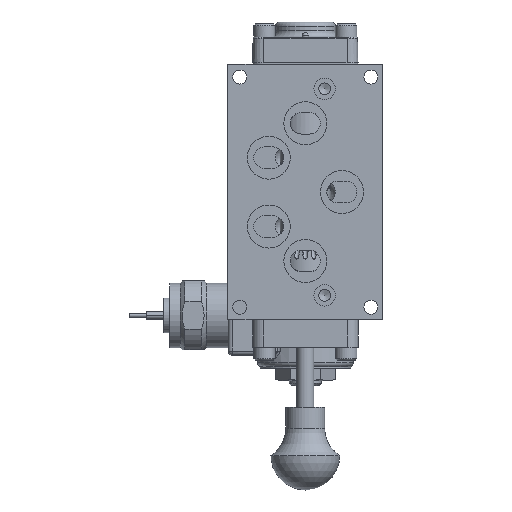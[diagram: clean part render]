
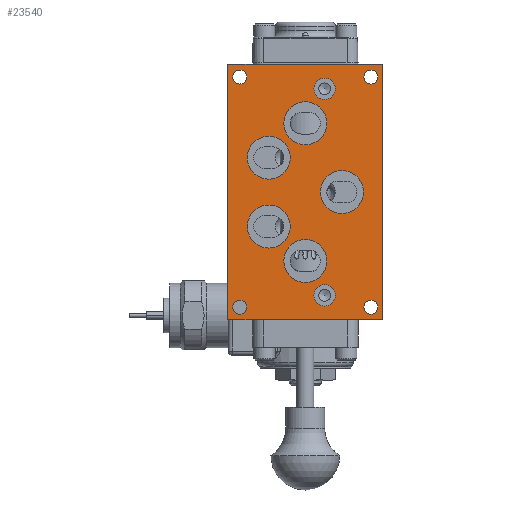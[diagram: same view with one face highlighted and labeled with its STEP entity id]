
A CAD part, front view. The second image highlights one B-rep face of the part: STEP entity #23540.
In plain terms, the highlighted planar face has unit normal (0, -1, 0).
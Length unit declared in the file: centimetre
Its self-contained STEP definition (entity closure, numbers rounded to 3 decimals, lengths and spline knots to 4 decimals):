
#818=FACE_BOUND('',#7115,.T.);
#819=FACE_BOUND('',#7116,.T.);
#820=FACE_BOUND('',#7117,.T.);
#821=FACE_BOUND('',#7118,.T.);
#822=FACE_BOUND('',#7119,.T.);
#823=FACE_BOUND('',#7120,.T.);
#824=FACE_BOUND('',#7121,.T.);
#825=FACE_BOUND('',#7122,.T.);
#826=FACE_BOUND('',#7123,.T.);
#827=FACE_BOUND('',#7124,.T.);
#828=FACE_BOUND('',#7125,.T.);
#2528=LINE('',#42718,#4059);
#2532=LINE('',#42727,#4063);
#2534=LINE('',#42730,#4065);
#2535=LINE('',#42731,#4066);
#4059=VECTOR('',#31596,1.);
#4063=VECTOR('',#31606,1.);
#4065=VECTOR('',#31610,1.);
#4066=VECTOR('',#31611,1.);
#5612=FACE_OUTER_BOUND('',#7114,.T.);
#7114=EDGE_LOOP('',(#19197,#19198,#19199,#19200));
#7115=EDGE_LOOP('',(#19201,#19202));
#7116=EDGE_LOOP('',(#19203,#19204));
#7117=EDGE_LOOP('',(#19205,#19206));
#7118=EDGE_LOOP('',(#19207,#19208));
#7119=EDGE_LOOP('',(#19209,#19210));
#7120=EDGE_LOOP('',(#19211,#19212));
#7121=EDGE_LOOP('',(#19213,#19214));
#7122=EDGE_LOOP('',(#19215));
#7123=EDGE_LOOP('',(#19216));
#7124=EDGE_LOOP('',(#19217));
#7125=EDGE_LOOP('',(#19218));
#8344=CIRCLE('',#25714,0.3962);
#8345=CIRCLE('',#25715,0.3962);
#8351=CIRCLE('',#25725,0.3962);
#8352=CIRCLE('',#25726,0.3962);
#8355=CIRCLE('',#25732,0.7938);
#8356=CIRCLE('',#25733,0.7938);
#8359=CIRCLE('',#25738,0.7938);
#8360=CIRCLE('',#25739,0.7938);
#8363=CIRCLE('',#25744,0.7938);
#8364=CIRCLE('',#25745,0.7938);
#8367=CIRCLE('',#25750,0.7938);
#8368=CIRCLE('',#25751,0.7938);
#8371=CIRCLE('',#25756,0.7938);
#8372=CIRCLE('',#25757,0.7938);
#8389=CIRCLE('',#25782,0.258);
#8393=CIRCLE('',#25788,0.258);
#8397=CIRCLE('',#25794,0.258);
#8401=CIRCLE('',#25800,0.258);
#10344=VERTEX_POINT('',#42494);
#10345=VERTEX_POINT('',#42495);
#10352=VERTEX_POINT('',#42516);
#10353=VERTEX_POINT('',#42517);
#10356=VERTEX_POINT('',#42529);
#10357=VERTEX_POINT('',#42530);
#10360=VERTEX_POINT('',#42540);
#10361=VERTEX_POINT('',#42541);
#10364=VERTEX_POINT('',#42551);
#10365=VERTEX_POINT('',#42552);
#10368=VERTEX_POINT('',#42562);
#10369=VERTEX_POINT('',#42563);
#10372=VERTEX_POINT('',#42573);
#10373=VERTEX_POINT('',#42574);
#10390=VERTEX_POINT('',#42626);
#10396=VERTEX_POINT('',#42641);
#10402=VERTEX_POINT('',#42656);
#10408=VERTEX_POINT('',#42671);
#10421=VERTEX_POINT('',#42714);
#10422=VERTEX_POINT('',#42716);
#10423=VERTEX_POINT('',#42724);
#10424=VERTEX_POINT('',#42726);
#13357=EDGE_CURVE('',#10344,#10345,#8344,.T.);
#13358=EDGE_CURVE('',#10345,#10344,#8345,.T.);
#13367=EDGE_CURVE('',#10352,#10353,#8351,.T.);
#13368=EDGE_CURVE('',#10353,#10352,#8352,.T.);
#13373=EDGE_CURVE('',#10356,#10357,#8355,.T.);
#13374=EDGE_CURVE('',#10357,#10356,#8356,.T.);
#13378=EDGE_CURVE('',#10360,#10361,#8359,.T.);
#13379=EDGE_CURVE('',#10361,#10360,#8360,.T.);
#13383=EDGE_CURVE('',#10364,#10365,#8363,.T.);
#13384=EDGE_CURVE('',#10365,#10364,#8364,.T.);
#13388=EDGE_CURVE('',#10368,#10369,#8367,.T.);
#13389=EDGE_CURVE('',#10369,#10368,#8368,.T.);
#13393=EDGE_CURVE('',#10372,#10373,#8371,.T.);
#13394=EDGE_CURVE('',#10373,#10372,#8372,.T.);
#13421=EDGE_CURVE('',#10390,#10390,#8389,.T.);
#13428=EDGE_CURVE('',#10396,#10396,#8393,.T.);
#13435=EDGE_CURVE('',#10402,#10402,#8397,.T.);
#13442=EDGE_CURVE('',#10408,#10408,#8401,.T.);
#13465=EDGE_CURVE('',#10421,#10422,#2528,.T.);
#13469=EDGE_CURVE('',#10424,#10423,#2532,.T.);
#13471=EDGE_CURVE('',#10423,#10421,#2534,.T.);
#13472=EDGE_CURVE('',#10422,#10424,#2535,.T.);
#19197=ORIENTED_EDGE('',*,*,#13471,.T.);
#19198=ORIENTED_EDGE('',*,*,#13465,.T.);
#19199=ORIENTED_EDGE('',*,*,#13472,.T.);
#19200=ORIENTED_EDGE('',*,*,#13469,.T.);
#19201=ORIENTED_EDGE('',*,*,#13357,.T.);
#19202=ORIENTED_EDGE('',*,*,#13358,.T.);
#19203=ORIENTED_EDGE('',*,*,#13367,.T.);
#19204=ORIENTED_EDGE('',*,*,#13368,.T.);
#19205=ORIENTED_EDGE('',*,*,#13373,.T.);
#19206=ORIENTED_EDGE('',*,*,#13374,.T.);
#19207=ORIENTED_EDGE('',*,*,#13378,.T.);
#19208=ORIENTED_EDGE('',*,*,#13379,.T.);
#19209=ORIENTED_EDGE('',*,*,#13383,.T.);
#19210=ORIENTED_EDGE('',*,*,#13384,.T.);
#19211=ORIENTED_EDGE('',*,*,#13388,.T.);
#19212=ORIENTED_EDGE('',*,*,#13389,.T.);
#19213=ORIENTED_EDGE('',*,*,#13393,.T.);
#19214=ORIENTED_EDGE('',*,*,#13394,.T.);
#19215=ORIENTED_EDGE('',*,*,#13421,.T.);
#19216=ORIENTED_EDGE('',*,*,#13428,.T.);
#19217=ORIENTED_EDGE('',*,*,#13435,.T.);
#19218=ORIENTED_EDGE('',*,*,#13442,.T.);
#21292=PLANE('',#25812);
#23540=ADVANCED_FACE('',(#5612,#818,#819,#820,#821,#822,#823,#824,#825,
#826,#827,#828),#21292,.T.);
#25714=AXIS2_PLACEMENT_3D('',#42496,#31356,#31357);
#25715=AXIS2_PLACEMENT_3D('',#42497,#31358,#31359);
#25725=AXIS2_PLACEMENT_3D('',#42518,#31381,#31382);
#25726=AXIS2_PLACEMENT_3D('',#42519,#31383,#31384);
#25732=AXIS2_PLACEMENT_3D('',#42531,#31397,#31398);
#25733=AXIS2_PLACEMENT_3D('',#42532,#31399,#31400);
#25738=AXIS2_PLACEMENT_3D('',#42542,#31410,#31411);
#25739=AXIS2_PLACEMENT_3D('',#42543,#31412,#31413);
#25744=AXIS2_PLACEMENT_3D('',#42553,#31423,#31424);
#25745=AXIS2_PLACEMENT_3D('',#42554,#31425,#31426);
#25750=AXIS2_PLACEMENT_3D('',#42564,#31436,#31437);
#25751=AXIS2_PLACEMENT_3D('',#42565,#31438,#31439);
#25756=AXIS2_PLACEMENT_3D('',#42575,#31449,#31450);
#25757=AXIS2_PLACEMENT_3D('',#42576,#31451,#31452);
#25782=AXIS2_PLACEMENT_3D('',#42628,#31511,#31512);
#25788=AXIS2_PLACEMENT_3D('',#42643,#31526,#31527);
#25794=AXIS2_PLACEMENT_3D('',#42658,#31541,#31542);
#25800=AXIS2_PLACEMENT_3D('',#42673,#31556,#31557);
#25812=AXIS2_PLACEMENT_3D('',#42729,#31608,#31609);
#31356=DIRECTION('center_axis',(0.,1.,0.));
#31357=DIRECTION('ref_axis',(1.,0.,0.));
#31358=DIRECTION('center_axis',(0.,1.,0.));
#31359=DIRECTION('ref_axis',(1.,0.,0.));
#31381=DIRECTION('center_axis',(0.,1.,0.));
#31382=DIRECTION('ref_axis',(1.,0.,0.));
#31383=DIRECTION('center_axis',(0.,1.,0.));
#31384=DIRECTION('ref_axis',(1.,0.,0.));
#31397=DIRECTION('center_axis',(0.,1.,0.));
#31398=DIRECTION('ref_axis',(1.,0.,0.));
#31399=DIRECTION('center_axis',(0.,1.,0.));
#31400=DIRECTION('ref_axis',(1.,0.,0.));
#31410=DIRECTION('center_axis',(0.,1.,0.));
#31411=DIRECTION('ref_axis',(1.,0.,0.));
#31412=DIRECTION('center_axis',(0.,1.,0.));
#31413=DIRECTION('ref_axis',(1.,0.,0.));
#31423=DIRECTION('center_axis',(0.,1.,0.));
#31424=DIRECTION('ref_axis',(1.,0.,0.));
#31425=DIRECTION('center_axis',(0.,1.,0.));
#31426=DIRECTION('ref_axis',(1.,0.,0.));
#31436=DIRECTION('center_axis',(0.,1.,0.));
#31437=DIRECTION('ref_axis',(1.,0.,0.));
#31438=DIRECTION('center_axis',(0.,1.,0.));
#31439=DIRECTION('ref_axis',(1.,0.,0.));
#31449=DIRECTION('center_axis',(0.,1.,0.));
#31450=DIRECTION('ref_axis',(1.,0.,0.));
#31451=DIRECTION('center_axis',(0.,1.,0.));
#31452=DIRECTION('ref_axis',(1.,0.,0.));
#31511=DIRECTION('center_axis',(0.,1.,0.));
#31512=DIRECTION('ref_axis',(1.,0.,0.));
#31526=DIRECTION('center_axis',(0.,1.,0.));
#31527=DIRECTION('ref_axis',(1.,0.,0.));
#31541=DIRECTION('center_axis',(0.,1.,0.));
#31542=DIRECTION('ref_axis',(1.,0.,0.));
#31556=DIRECTION('center_axis',(0.,1.,0.));
#31557=DIRECTION('ref_axis',(1.,0.,0.));
#31596=DIRECTION('',(0.,0.,-1.));
#31606=DIRECTION('',(0.,0.,1.));
#31608=DIRECTION('center_axis',(0.,-1.,0.));
#31609=DIRECTION('ref_axis',(0.,0.,-1.));
#31610=DIRECTION('',(-1.,0.,0.));
#31611=DIRECTION('',(1.,0.,0.));
#42494=CARTESIAN_POINT('',(1.11,-1.6358,-3.81));
#42495=CARTESIAN_POINT('',(0.3175,-1.6358,-3.81));
#42496=CARTESIAN_POINT('Origin',(0.7137,-1.6358,-3.81));
#42497=CARTESIAN_POINT('Origin',(0.7137,-1.6358,-3.81));
#42516=CARTESIAN_POINT('',(1.11,-1.6358,3.81));
#42517=CARTESIAN_POINT('',(0.3175,-1.6358,3.81));
#42518=CARTESIAN_POINT('Origin',(0.7137,-1.6358,3.81));
#42519=CARTESIAN_POINT('Origin',(0.7137,-1.6358,3.81));
#42529=CARTESIAN_POINT('',(2.1425,-1.6358,0.));
#42530=CARTESIAN_POINT('',(0.555,-1.6358,0.));
#42531=CARTESIAN_POINT('Origin',(1.3487,-1.6358,0.));
#42532=CARTESIAN_POINT('Origin',(1.3487,-1.6358,0.));
#42540=CARTESIAN_POINT('',(0.7938,-1.6358,-2.54));
#42541=CARTESIAN_POINT('',(-0.7938,-1.6358,-2.54));
#42542=CARTESIAN_POINT('Origin',(0.,-1.6358,-2.54));
#42543=CARTESIAN_POINT('Origin',(0.,-1.6358,-2.54));
#42551=CARTESIAN_POINT('',(0.7938,-1.6358,2.54));
#42552=CARTESIAN_POINT('',(-0.7938,-1.6358,2.54));
#42553=CARTESIAN_POINT('Origin',(0.,-1.6358,2.54));
#42554=CARTESIAN_POINT('Origin',(0.,-1.6358,2.54));
#42562=CARTESIAN_POINT('',(-0.555,-1.6358,-1.27));
#42563=CARTESIAN_POINT('',(-2.1425,-1.6358,-1.27));
#42564=CARTESIAN_POINT('Origin',(-1.3487,-1.6358,-1.27));
#42565=CARTESIAN_POINT('Origin',(-1.3487,-1.6358,-1.27));
#42573=CARTESIAN_POINT('',(-0.555,-1.6358,1.27));
#42574=CARTESIAN_POINT('',(-2.1425,-1.6358,1.27));
#42575=CARTESIAN_POINT('Origin',(-1.3487,-1.6358,1.27));
#42576=CARTESIAN_POINT('Origin',(-1.3487,-1.6358,1.27));
#42626=CARTESIAN_POINT('',(-2.6786,-1.6358,4.2469));
#42628=CARTESIAN_POINT('Origin',(-2.4206,-1.6358,4.2469));
#42641=CARTESIAN_POINT('',(2.1627,-1.6358,4.2469));
#42643=CARTESIAN_POINT('Origin',(2.4206,-1.6358,4.2469));
#42656=CARTESIAN_POINT('',(2.1627,-1.6358,-4.2469));
#42658=CARTESIAN_POINT('Origin',(2.4206,-1.6358,-4.2469));
#42671=CARTESIAN_POINT('',(-2.6786,-1.6358,-4.2469));
#42673=CARTESIAN_POINT('Origin',(-2.4206,-1.6358,-4.2469));
#42714=CARTESIAN_POINT('',(-2.8575,-1.6358,4.7104));
#42716=CARTESIAN_POINT('',(-2.8575,-1.6358,-4.7104));
#42718=CARTESIAN_POINT('',(-2.8575,-1.6358,0.));
#42724=CARTESIAN_POINT('',(2.8575,-1.6358,4.7104));
#42726=CARTESIAN_POINT('',(2.8575,-1.6358,-4.7104));
#42727=CARTESIAN_POINT('',(2.8575,-1.6358,0.));
#42729=CARTESIAN_POINT('Origin',(2.8575,-1.6358,0.));
#42730=CARTESIAN_POINT('',(-2.8575,-1.6358,4.7104));
#42731=CARTESIAN_POINT('',(-2.8575,-1.6358,-4.7104));
